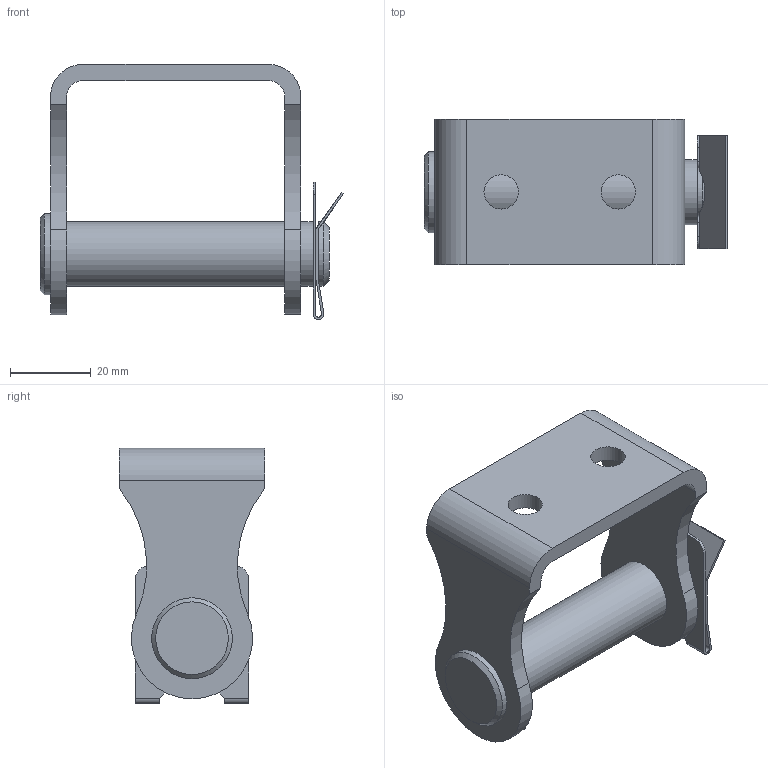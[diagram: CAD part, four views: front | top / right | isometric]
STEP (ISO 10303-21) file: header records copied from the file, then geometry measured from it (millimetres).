
FILE_DESCRIPTION(/* description */ (''),/* implementation_level */ '2;1');
FILE_NAME(/* name */ 'G:\3D-Zeichnungen\Easy-E-line\Beschläge\montiert\Step\EEL900BA60-3MS.stp',/* time_stamp */ '2019-07-17T11:12:11+02:00',/* author */ ('cadneu2'),/* organization */ (''),/* preprocessor_version */ 'ST-DEVELOPER v16.1',/* originating_system */ 'Autodesk Inventor 2016',/* authorisation */ '');
FILE_SCHEMA (('AUTOMOTIVE_DESIGN { 1 0 10303 214 3 1 1 }'));
Length unit declared in the file: millimetre
Products named in the file (4): EEL900BA60U3MS; EEL60-BO-MO-71.5; 63791501; EEL900BA60-3MS
Assembly tree (3 placements, depth 2):
  EEL900BA60-3MS
    EEL900BA60U3MS
    EEL60-BO-MO-71.5
    63791501
Bounding box: 75.07 x 36 x 63.2 mm (x, y, z)
Volume: 33653.1 mm3; surface area: 18368.2 mm2
Topology: 3 solids, 3 shells, 67 faces, 176 edges, 116 vertices
Faces by surface type: plane 36, cylinder 29, cone 2
Full cylindrical faces by diameter (mm): 8.5 x2, 12 x1, 16 x4, 20 x1
Entity records: 2127 total; most frequent: DIRECTION 376, CARTESIAN_POINT 352, ORIENTED_EDGE 328, EDGE_CURVE 164, AXIS2_PLACEMENT_3D 138, VERTEX_POINT 114, LINE 100, VECTOR 100
